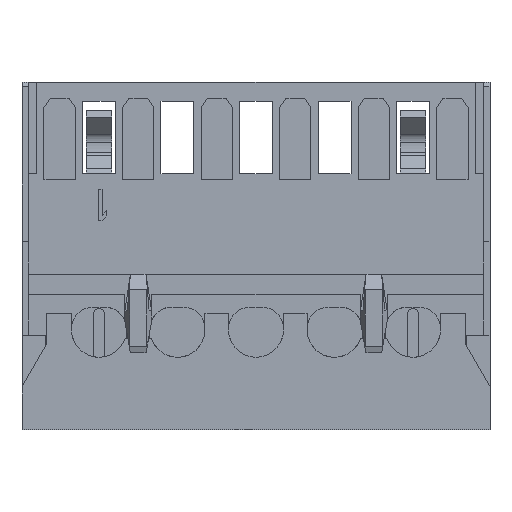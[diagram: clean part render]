
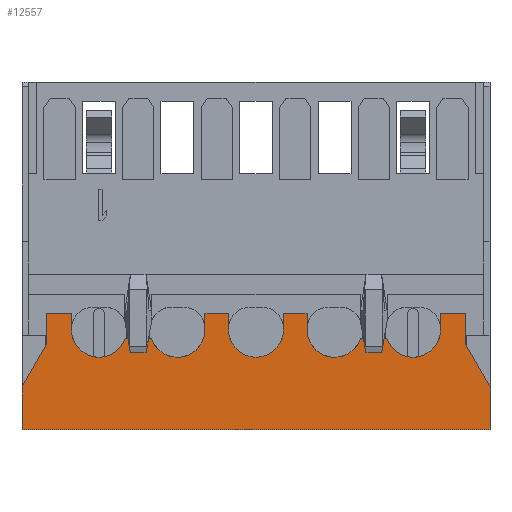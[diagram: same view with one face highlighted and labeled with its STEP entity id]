
A CAD part, front view. The second image highlights one B-rep face of the part: STEP entity #12557.
In plain terms, the highlighted planar face has unit normal (0, -1, 0).
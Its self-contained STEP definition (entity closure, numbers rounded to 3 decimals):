
#3247=CARTESIAN_POINT('',(0.,-4.,-7.875));
#3248=DIRECTION('',(0.,-1.,0.));
#3249=DIRECTION('',(-1.,0.,0.));
#3250=AXIS2_PLACEMENT_3D('',#3247,#3248,#3249);
#3252=DIRECTION('',(0.,0.,-1.));
#3253=VECTOR('',#3252,0.525);
#3254=CARTESIAN_POINT('',(0.875,-4.,-7.35));
#3255=LINE('',#3254,#3253);
#3256=DIRECTION('',(1.,0.,0.));
#3257=VECTOR('',#3256,0.75);
#3258=CARTESIAN_POINT('',(0.875,-4.,-7.35));
#3259=LINE('',#3258,#3257);
#3260=DIRECTION('',(0.,0.,-1.));
#3261=VECTOR('',#3260,0.525);
#3262=CARTESIAN_POINT('',(1.625,-4.,-7.35));
#3263=LINE('',#3262,#3261);
#3264=CARTESIAN_POINT('',(2.5,-4.,-7.875));
#3265=DIRECTION('',(0.,-1.,0.));
#3266=DIRECTION('',(-1.,0.,0.));
#3267=AXIS2_PLACEMENT_3D('',#3264,#3265,#3266);
#3269=DIRECTION('',(1.,0.,0.));
#3270=VECTOR('',#3269,0.839);
#3271=CARTESIAN_POINT('',(3.331,-4.,-8.15));
#3272=LINE('',#3271,#3270);
#3273=CARTESIAN_POINT('',(5.,-4.,-7.875));
#3274=DIRECTION('',(0.,-1.,0.));
#3275=DIRECTION('',(-0.949,0.,-0.314));
#3276=AXIS2_PLACEMENT_3D('',#3273,#3274,#3275);
#3278=DIRECTION('',(0.,0.,-1.));
#3279=VECTOR('',#3278,0.525);
#3280=CARTESIAN_POINT('',(5.875,-4.,-7.35));
#3281=LINE('',#3280,#3279);
#3282=DIRECTION('',(1.,0.,0.));
#3283=VECTOR('',#3282,0.8);
#3284=CARTESIAN_POINT('',(5.875,-4.,-7.35));
#3285=LINE('',#3284,#3283);
#3286=DIRECTION('',(0.,0.,-1.));
#3287=VECTOR('',#3286,1.);
#3288=CARTESIAN_POINT('',(6.675,-4.,-7.35));
#3289=LINE('',#3288,#3287);
#3290=DIRECTION('',(0.5,0.,-0.866));
#3291=VECTOR('',#3290,1.55);
#3292=CARTESIAN_POINT('',(6.675,-4.,-8.35));
#3293=LINE('',#3292,#3291);
#3294=DIRECTION('',(0.5,0.,0.866));
#3295=VECTOR('',#3294,1.55);
#3296=CARTESIAN_POINT('',(-7.45,-4.,-9.692));
#3297=LINE('',#3296,#3295);
#3298=DIRECTION('',(0.,0.,-1.));
#3299=VECTOR('',#3298,1.);
#3300=CARTESIAN_POINT('',(-6.675,-4.,-7.35));
#3301=LINE('',#3300,#3299);
#3302=DIRECTION('',(1.,0.,0.));
#3303=VECTOR('',#3302,0.8);
#3304=CARTESIAN_POINT('',(-6.675,-4.,-7.35));
#3305=LINE('',#3304,#3303);
#3306=DIRECTION('',(0.,0.,-1.));
#3307=VECTOR('',#3306,0.525);
#3308=CARTESIAN_POINT('',(-5.875,-4.,-7.35));
#3309=LINE('',#3308,#3307);
#3310=CARTESIAN_POINT('',(-5.,-4.,-7.875));
#3311=DIRECTION('',(0.,-1.,0.));
#3312=DIRECTION('',(-1.,0.,0.));
#3313=AXIS2_PLACEMENT_3D('',#3310,#3311,#3312);
#3315=DIRECTION('',(1.,0.,0.));
#3316=VECTOR('',#3315,0.839);
#3317=CARTESIAN_POINT('',(-4.169,-4.,-8.15));
#3318=LINE('',#3317,#3316);
#3319=CARTESIAN_POINT('',(-2.5,-4.,-7.875));
#3320=DIRECTION('',(0.,-1.,0.));
#3321=DIRECTION('',(-0.949,0.,-0.314));
#3322=AXIS2_PLACEMENT_3D('',#3319,#3320,#3321);
#3324=DIRECTION('',(0.,0.,-1.));
#3325=VECTOR('',#3324,0.525);
#3326=CARTESIAN_POINT('',(-1.625,-4.,-7.35));
#3327=LINE('',#3326,#3325);
#3328=DIRECTION('',(1.,0.,0.));
#3329=VECTOR('',#3328,0.75);
#3330=CARTESIAN_POINT('',(-1.625,-4.,-7.35));
#3331=LINE('',#3330,#3329);
#3332=DIRECTION('',(0.,0.,-1.));
#3333=VECTOR('',#3332,0.525);
#3334=CARTESIAN_POINT('',(-0.875,-4.,-7.35));
#3335=LINE('',#3334,#3333);
#3730=DIRECTION('',(0.,0.,-1.));
#3731=VECTOR('',#3730,1.358);
#3732=CARTESIAN_POINT('',(-7.45,-4.,-9.692));
#3733=LINE('',#3732,#3731);
#3858=DIRECTION('',(1.,0.,0.));
#3859=VECTOR('',#3858,14.9);
#3860=CARTESIAN_POINT('',(-7.45,-4.,-11.05));
#3861=LINE('',#3860,#3859);
#4738=DIRECTION('',(0.,0.,-1.));
#4739=VECTOR('',#4738,1.358);
#4740=CARTESIAN_POINT('',(7.45,-4.,-9.692));
#4741=LINE('',#4740,#4739);
#7110=CARTESIAN_POINT('',(-7.45,-4.,-11.05));
#7111=CARTESIAN_POINT('',(7.45,-4.,-11.05));
#7112=VERTEX_POINT('',#7110);
#7113=VERTEX_POINT('',#7111);
#7633=CARTESIAN_POINT('',(-7.45,-4.,-9.692));
#7634=VERTEX_POINT('',#7633);
#7639=CARTESIAN_POINT('',(7.45,-4.,-9.692));
#7640=VERTEX_POINT('',#7639);
#7645=CARTESIAN_POINT('',(-5.875,-4.,-7.875));
#7646=CARTESIAN_POINT('',(-4.169,-4.,-8.15));
#7647=VERTEX_POINT('',#7645);
#7648=VERTEX_POINT('',#7646);
#7649=CARTESIAN_POINT('',(-3.331,-4.,-8.15));
#7650=VERTEX_POINT('',#7649);
#7651=CARTESIAN_POINT('',(-1.625,-4.,-7.875));
#7652=VERTEX_POINT('',#7651);
#7653=CARTESIAN_POINT('',(-1.625,-4.,-7.35));
#7654=VERTEX_POINT('',#7653);
#7655=CARTESIAN_POINT('',(-5.875,-4.,-7.35));
#7656=VERTEX_POINT('',#7655);
#7687=CARTESIAN_POINT('',(-6.675,-4.,-7.35));
#7688=VERTEX_POINT('',#7687);
#7689=CARTESIAN_POINT('',(5.875,-4.,-7.35));
#7690=CARTESIAN_POINT('',(6.675,-4.,-7.35));
#7691=VERTEX_POINT('',#7689);
#7692=VERTEX_POINT('',#7690);
#7693=CARTESIAN_POINT('',(-0.875,-4.,-7.875));
#7694=CARTESIAN_POINT('',(0.875,-4.,-7.875));
#7695=VERTEX_POINT('',#7693);
#7696=VERTEX_POINT('',#7694);
#7839=CARTESIAN_POINT('',(0.875,-4.,-7.35));
#7840=VERTEX_POINT('',#7839);
#7841=CARTESIAN_POINT('',(-0.875,-4.,-7.35));
#7842=VERTEX_POINT('',#7841);
#7859=CARTESIAN_POINT('',(1.625,-4.,-7.35));
#7860=VERTEX_POINT('',#7859);
#7891=CARTESIAN_POINT('',(6.675,-4.,-8.35));
#7892=VERTEX_POINT('',#7891);
#7893=CARTESIAN_POINT('',(-6.675,-4.,-8.35));
#7894=VERTEX_POINT('',#7893);
#8931=CARTESIAN_POINT('',(5.875,-4.,-7.875));
#8932=VERTEX_POINT('',#8931);
#8933=CARTESIAN_POINT('',(1.625,-4.,-7.875));
#8934=VERTEX_POINT('',#8933);
#8935=CARTESIAN_POINT('',(3.331,-4.,-8.15));
#8936=VERTEX_POINT('',#8935);
#8937=CARTESIAN_POINT('',(4.169,-4.,-8.15));
#8938=VERTEX_POINT('',#8937);
#12503=CARTESIAN_POINT('',(-7.45,-4.,-7.35));
#12504=DIRECTION('',(0.,-1.,0.));
#12505=DIRECTION('',(0.,0.,-1.));
#12506=AXIS2_PLACEMENT_3D('',#12503,#12504,#12505);
#12507=PLANE('',#12506);
#12509=ORIENTED_EDGE('',*,*,#12508,.T.);
#12511=ORIENTED_EDGE('',*,*,#12510,.F.);
#12513=ORIENTED_EDGE('',*,*,#12512,.T.);
#12515=ORIENTED_EDGE('',*,*,#12514,.T.);
#12517=ORIENTED_EDGE('',*,*,#12516,.T.);
#12519=ORIENTED_EDGE('',*,*,#12518,.T.);
#12521=ORIENTED_EDGE('',*,*,#12520,.T.);
#12523=ORIENTED_EDGE('',*,*,#12522,.F.);
#12525=ORIENTED_EDGE('',*,*,#12524,.T.);
#12527=ORIENTED_EDGE('',*,*,#12526,.T.);
#12529=ORIENTED_EDGE('',*,*,#12528,.T.);
#12531=ORIENTED_EDGE('',*,*,#12530,.T.);
#12533=ORIENTED_EDGE('',*,*,#12532,.F.);
#12535=ORIENTED_EDGE('',*,*,#12534,.F.);
#12537=ORIENTED_EDGE('',*,*,#12536,.T.);
#12539=ORIENTED_EDGE('',*,*,#12538,.F.);
#12541=ORIENTED_EDGE('',*,*,#12540,.T.);
#12543=ORIENTED_EDGE('',*,*,#12542,.T.);
#12544=ORIENTED_EDGE('',*,*,#12481,.T.);
#12546=ORIENTED_EDGE('',*,*,#12545,.T.);
#12548=ORIENTED_EDGE('',*,*,#12547,.T.);
#12550=ORIENTED_EDGE('',*,*,#12549,.F.);
#12552=ORIENTED_EDGE('',*,*,#12551,.T.);
#12554=ORIENTED_EDGE('',*,*,#12553,.T.);
#12555=EDGE_LOOP('',(#12509,#12511,#12513,#12515,#12517,#12519,#12521,#12523,
#12525,#12527,#12529,#12531,#12533,#12535,#12537,#12539,#12541,#12543,#12544,
#12546,#12548,#12550,#12552,#12554));
#12556=FACE_OUTER_BOUND('',#12555,.F.);
#12557=ADVANCED_FACE('',(#12556),#12507,.T.);
#3251=CIRCLE('',#3250,0.875);
#3268=CIRCLE('',#3267,0.875);
#3277=CIRCLE('',#3276,0.875);
#3314=CIRCLE('',#3313,0.875);
#3323=CIRCLE('',#3322,0.875);
#12481=EDGE_CURVE('',#7647,#7648,#3314,.T.);
#12508=EDGE_CURVE('',#7695,#7696,#3251,.T.);
#12510=EDGE_CURVE('',#7840,#7696,#3255,.T.);
#12512=EDGE_CURVE('',#7840,#7860,#3259,.T.);
#12514=EDGE_CURVE('',#7860,#8934,#3263,.T.);
#12516=EDGE_CURVE('',#8934,#8936,#3268,.T.);
#12518=EDGE_CURVE('',#8936,#8938,#3272,.T.);
#12520=EDGE_CURVE('',#8938,#8932,#3277,.T.);
#12522=EDGE_CURVE('',#7691,#8932,#3281,.T.);
#12524=EDGE_CURVE('',#7691,#7692,#3285,.T.);
#12526=EDGE_CURVE('',#7692,#7892,#3289,.T.);
#12528=EDGE_CURVE('',#7892,#7640,#3293,.T.);
#12530=EDGE_CURVE('',#7640,#7113,#4741,.T.);
#12532=EDGE_CURVE('',#7112,#7113,#3861,.T.);
#12534=EDGE_CURVE('',#7634,#7112,#3733,.T.);
#12536=EDGE_CURVE('',#7634,#7894,#3297,.T.);
#12538=EDGE_CURVE('',#7688,#7894,#3301,.T.);
#12540=EDGE_CURVE('',#7688,#7656,#3305,.T.);
#12542=EDGE_CURVE('',#7656,#7647,#3309,.T.);
#12545=EDGE_CURVE('',#7648,#7650,#3318,.T.);
#12547=EDGE_CURVE('',#7650,#7652,#3323,.T.);
#12549=EDGE_CURVE('',#7654,#7652,#3327,.T.);
#12551=EDGE_CURVE('',#7654,#7842,#3331,.T.);
#12553=EDGE_CURVE('',#7842,#7695,#3335,.T.);
